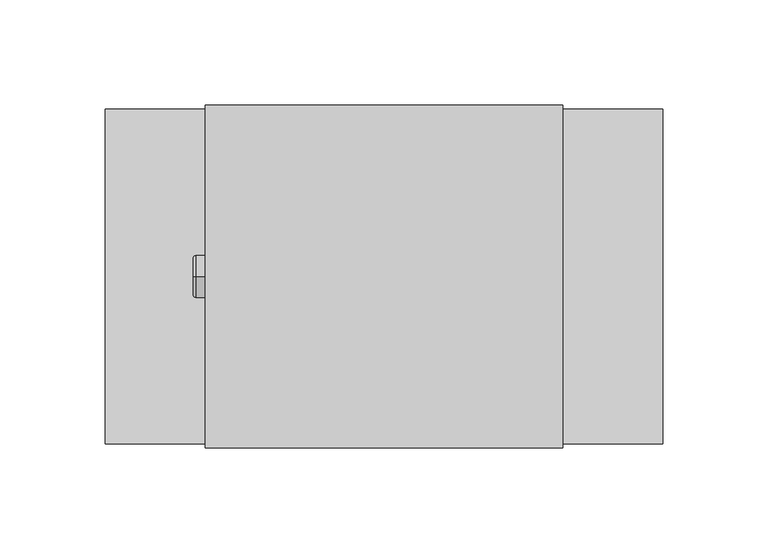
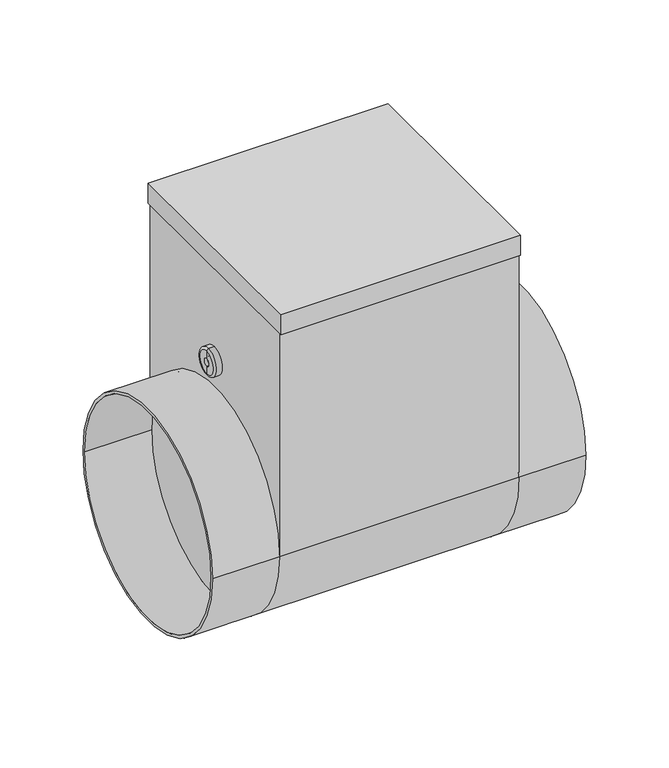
"""IFC4 building model written with IfcOpenShell, lengths in millimetres: proxy geometry."""

from ifc_helpers import new_model, si_unit, point, frame, origin, place, context, project, spatial, polyline, circle_curve, ellipse_curve, trimmed, outline, extrude, source, transform, mapped, element, save
from ifc_brep_helpers import plane_surface, cylinder_surface, revolved_surface, advanced_brep


def mechanical_equipment_70cf5aef(model_context):
    return source(origin(), model_context, "Body", "SolidModel", [
        extrude(outline(polyline([(85.0, -81.5), (-85.0, -81.5), (-85.0, 81.5), (85.0, 81.5), (85.0, -81.5)])), frame((0.0, 0.0, 167.5), z_axis=(0.0, 0.0, 1.0), x_axis=(1.0, 0.0, 0.0)), (0.0, 0.0, 1.0), 15.0),
        advanced_brep(
        [(-132.5, -79.5, 0.0), (-132.5, 79.5, 0.0), (-132.5, -77.5, 0.0), (-132.5, 77.5, 0.0), (-85.0, 77.5, 0.0), (-85.0, -77.5, 0.0), (-85.0, 79.5, 0.0), (-85.0, -79.5, 0.0), (85.0, -77.5, 0.0), (85.0, 77.5, 0.0), (85.0, -79.5, 167.5), (85.0, -79.5, 0.0), (85.0, 79.5, 0.0), (85.0, 79.5, 167.5), (-85.0, -79.5, 167.5), (-85.0, 79.5, 167.5), (132.5, -79.5, 0.0), (132.5, 79.5, 0.0), (132.5, -77.5, 0.0), (132.5, 77.5, 0.0)],
        [
            (0, 1, circle_curve(frame((-132.5, 0.0, 0.0), z_axis=(-1.0, 0.0, 0.0), x_axis=(0.0, 1.0, 0.0)), 79.5)),
            (1, 0, circle_curve(frame((-132.5, 0.0, 0.0), z_axis=(-1.0, 0.0, 0.0), x_axis=(0.0, 1.0, 0.0)), 79.5)),
            (2, 3, circle_curve(frame((-132.5, 0.0, 0.0), z_axis=(1.0, 0.0, 0.0), x_axis=(0.0, 1.0, 0.0)), 77.5)),
            (3, 2, circle_curve(frame((-132.5, 0.0, 0.0), z_axis=(1.0, 0.0, 0.0), x_axis=(0.0, 1.0, 0.0)), 77.5)),
            (3, 4),
            (4, 5, circle_curve(frame((-85.0, 0.0, 0.0), z_axis=(1.0, 0.0, 0.0), x_axis=(0.0, 1.0, 0.0)), 77.5)),
            (5, 2),
            (5, 4, circle_curve(frame((-85.0, 0.0, 0.0), z_axis=(1.0, 0.0, 0.0), x_axis=(0.0, 1.0, 0.0)), 77.5)),
            (1, 6),
            (6, 7, circle_curve(frame((-85.0, 0.0, 0.0), z_axis=(-1.0, 0.0, 0.0), x_axis=(0.0, 1.0, 0.0)), 79.5)),
            (7, 0),
            (7, 6, circle_curve(frame((-85.0, 0.0, 0.0), z_axis=(-1.0, 0.0, 0.0), x_axis=(0.0, 1.0, 0.0)), 79.5)),
            (8, 9, circle_curve(frame((85.0, 0.0, 0.0), z_axis=(1.0, 0.0, 0.0), x_axis=(0.0, 1.0, 0.0)), 77.5)),
            (9, 8, circle_curve(frame((85.0, 0.0, 0.0), z_axis=(1.0, 0.0, 0.0), x_axis=(0.0, 1.0, 0.0)), 77.5)),
            (10, 11),
            (11, 12, circle_curve(frame((85.0, 0.0, 0.0), z_axis=(-1.0, 0.0, 0.0), x_axis=(0.0, 1.0, 0.0)), 79.5)),
            (12, 13),
            (13, 10),
            (7, 14),
            (14, 15),
            (15, 6),
            (6, 12),
            (12, 11, circle_curve(frame((85.0, 0.0, 0.0), z_axis=(-1.0, 0.0, 0.0), x_axis=(0.0, 1.0, 0.0)), 79.5)),
            (11, 7),
            (16, 17, circle_curve(frame((132.5, 0.0, 0.0), z_axis=(1.0, 0.0, 0.0), x_axis=(0.0, 1.0, 0.0)), 79.5)),
            (17, 16, circle_curve(frame((132.5, 0.0, 0.0), z_axis=(1.0, 0.0, 0.0), x_axis=(0.0, 1.0, 0.0)), 79.5)),
            (18, 19, circle_curve(frame((132.5, 0.0, 0.0), z_axis=(-1.0, 0.0, 0.0), x_axis=(0.0, 1.0, 0.0)), 77.5)),
            (19, 18, circle_curve(frame((132.5, 0.0, 0.0), z_axis=(-1.0, 0.0, 0.0), x_axis=(0.0, 1.0, 0.0)), 77.5)),
            (18, 8),
            (9, 19),
            (16, 11),
            (12, 17),
            (10, 14),
            (15, 13),
        ],
        [
            plane_surface(frame((-132.5, 77.5, 0.0), z_axis=(-1.0, 0.0, 0.0), x_axis=(0.0, 0.0, 1.0))),
            revolved_surface(polyline([(-132.5, 77.5, 0.0), (-85.0, 77.5, 0.0)]), (-132.5, 0.0, 0.0), (-1.0, 0.0, 0.0)),
            cylinder_surface(frame((0.0, 0.0, 0.0), z_axis=(1.0, 0.0, 0.0), x_axis=(0.0, 1.0, 0.0)), 79.5),
            plane_surface(frame((85.0, 79.5, 0.0), z_axis=(1.0, 0.0, 0.0), x_axis=(0.0, -1.0, 0.0))),
            plane_surface(frame((-85.0, 79.5, 0.0), z_axis=(-1.0, 0.0, 0.0), x_axis=(0.0, 1.0, 0.0))),
            cylinder_surface(frame((-85.0, 0.0, 0.0), z_axis=(1.0, 0.0, 0.0), x_axis=(0.0, 1.0, 0.0)), 79.5),
            plane_surface(frame((132.5, 77.5, 0.0), z_axis=(1.0, 0.0, 0.0), x_axis=(0.0, 0.0, -1.0))),
            revolved_surface(polyline([(85.0, 77.5, 0.0), (132.5, 77.5, 0.0)]), (85.0, 0.0, 0.0), (-1.0, 0.0, 0.0)),
            plane_surface(frame((-85.0, -79.5, 167.5), z_axis=(0.0, -1.0, 0.0), x_axis=(-1.0, 0.0, 0.0))),
            plane_surface(frame((-85.0, 79.5, 167.5), z_axis=(0.0, 1.0, 0.0), x_axis=(1.0, 0.0, 0.0))),
            plane_surface(frame((85.0, -79.5, 167.5), z_axis=(0.0, 0.0, 1.0), x_axis=(0.0, 1.0, 0.0))),
        ],
        [
            (0, [[1, 2], [3, 4]]),
            (1, [[-4, 5, 6, 7]]),
            (1, [[-3, -7, 8, -5]]),
            (2, [[-2, 9, 10, 11]]),
            (2, [[-1, -11, 12, -9]]),
            (3, [[13, 14]]),
            (3, [[15, 16, 17, 18]]),
            (4, [[-8, -6]]),
            (4, [[19, 20, 21, -12]]),
            (5, [[-10, 22, 23, 24]]),
            (6, [[25, 26], [27, 28]]),
            (7, [[-27, 29, -14, 30]]),
            (7, [[-28, -30, -13, -29]]),
            (2, [[-25, 31, -23, 32]]),
            (2, [[-26, -32, -16, -31]]),
            (8, [[33, -19, -24, -15]]),
            (9, [[-17, -22, -21, 34]]),
            (10, [[-33, -18, -34, -20]]),
        ],
    ),
        advanced_brep(
        [(-89.2840134, 0.0, 89.5), (-89.2840134, 0.0, 109.5), (-85.0, 0.0, 109.5), (-85.0, 0.0, 89.5), (-90.7459771, 0.0, 90.9619637), (-90.7459771, 0.0, 108.0380363), (-90.7459771, 0.0, 96.3948071), (-90.7459771, 0.0, 102.6051929), (-88.4138357, 0.0, 96.3948071), (-88.4138357, 0.0, 102.6051929), (-88.4138357, 0.0, 99.5), (-85.0, 0.0, 99.5)],
        [
            (0, 1, circle_curve(frame((-89.2840134, 0.0, 99.5), z_axis=(1.0, 0.0, 0.0), x_axis=(0.0, 0.0, 1.0)), 10.0)),
            (1, 2),
            (2, 3, circle_curve(frame((-85.0, 0.0, 99.5), z_axis=(-1.0, 0.0, 0.0), x_axis=(0.0, 0.0, 1.0)), 10.0)),
            (3, 0),
            (1, 0, circle_curve(frame((-89.2840134, 0.0, 99.5), z_axis=(1.0, 0.0, 0.0), x_axis=(0.0, 0.0, 1.0)), 10.0)),
            (3, 2, circle_curve(frame((-85.0, 0.0, 99.5), z_axis=(-1.0, 0.0, 0.0), x_axis=(0.0, 0.0, 1.0)), 10.0)),
            (4, 5, circle_curve(frame((-90.7459771, 0.0, 99.5), z_axis=(1.0, 0.0, 0.0), x_axis=(0.0, 0.0, 1.0)), 8.5380363)),
            (5, 1, circle_curve(frame((-89.2840134, 0.0, 108.0380363), z_axis=(0.0, 1.0, 0.0), x_axis=(1.0, 0.0, 0.0)), 1.4619637)),
            (0, 4, circle_curve(frame((-89.2840134, 0.0, 90.9619637), z_axis=(0.0, 1.0, 0.0), x_axis=(1.0, 0.0, 0.0)), 1.4619637)),
            (5, 4, circle_curve(frame((-90.7459771, 0.0, 99.5), z_axis=(1.0, 0.0, 0.0), x_axis=(0.0, 0.0, 1.0)), 8.5380363)),
            (6, 7, circle_curve(frame((-90.7459771, 0.0, 99.5), z_axis=(1.0, 0.0, 0.0), x_axis=(0.0, 0.0, 1.0)), 3.1051929)),
            (7, 5),
            (4, 6),
            (7, 6, circle_curve(frame((-90.7459771, 0.0, 99.5), z_axis=(1.0, 0.0, 0.0), x_axis=(0.0, 0.0, 1.0)), 3.1051929)),
            (8, 9, circle_curve(frame((-88.4138357, 0.0, 99.5), z_axis=(1.0, 0.0, 0.0), x_axis=(0.0, 0.0, 1.0)), 3.1051929)),
            (9, 7),
            (6, 8),
            (9, 8, circle_curve(frame((-88.4138357, 0.0, 99.5), z_axis=(1.0, 0.0, 0.0), x_axis=(0.0, 0.0, 1.0)), 3.1051929)),
            (10, 9),
            (8, 10),
            (2, 11),
            (11, 3),
        ],
        [
            cylinder_surface(frame((-120.6635229, 0.0, 99.5), z_axis=(-1.0, 0.0, 0.0), x_axis=(0.0, 0.0, 1.0)), 10.0),
            revolved_surface(trimmed(ellipse_curve(frame((-89.2840134, 0.0, 108.0380363), z_axis=(0.0, -1.0, 0.0), x_axis=(1.0, 0.0, 0.0)), 1.4619637, 1.4619637), [point((-89.2840134, 0.0, 109.5))], [point((-90.7459771, 0.0, 108.0380363))], True, "CARTESIAN"), (-120.6635229, 0.0, 99.5), (-1.0, 0.0, 0.0)),
            plane_surface(frame((-90.7459771, 0.0, 99.5), z_axis=(-1.0, 0.0, 0.0), x_axis=(0.0, 0.0, 1.0))),
            revolved_surface(polyline([(-90.7459771, 0.0, 102.6051929), (-88.4138357, 0.0, 102.6051929)]), (-120.6635229, 0.0, 99.5), (-1.0, 0.0, 0.0)),
            plane_surface(frame((-88.4138357, 0.0, 99.5), z_axis=(-1.0, 0.0, 0.0), x_axis=(0.0, 0.0, 1.0))),
            plane_surface(frame((-85.0, 0.0, 99.5), z_axis=(1.0, 0.0, 0.0), x_axis=(0.0, 0.0, 1.0))),
        ],
        [
            (0, [[1, 2, 3, 4]]),
            (0, [[5, -4, 6, -2]]),
            (1, [[7, 8, -1, 9]]),
            (1, [[10, -9, -5, -8]]),
            (2, [[11, 12, -7, 13]]),
            (2, [[14, -13, -10, -12]]),
            (3, [[15, 16, -11, 17]]),
            (3, [[18, -17, -14, -16]]),
            (4, [[19, -15, 20]]),
            (4, [[-20, -18, -19]]),
            (5, [[-3, 21, 22]]),
            (5, [[-6, -22, -21]]),
        ],
    ),
    ])


if __name__ == "__main__":
    model = new_model("IFC4")
    model_context = context("Model", 3, world=origin())
    ifc_project = project(units=[si_unit("LENGTHUNIT", "METRE", prefix="MILLI")], contexts=[model_context])
    site = spatial("IfcSite", under=ifc_project)
    building = spatial("IfcBuilding", under=site)
    placement = place(None, origin())
    mechanical_equipment_shape = mechanical_equipment_70cf5aef(model_context)
    element("IfcBuildingElementProxy", 1, Name="Mechanical Equipment", at=placement, inside=building, context=model_context, shape_type="MappedRepresentation", body=[
        mapped(mechanical_equipment_shape, transform((0.0, 0.0, 0.0), x_axis=(1.0, 0.0, 0.0), y_axis=(0.0, 1.0, 0.0), z_axis=(0.0, 0.0, 1.0))),
    ])
    save(model, "model.ifc")
